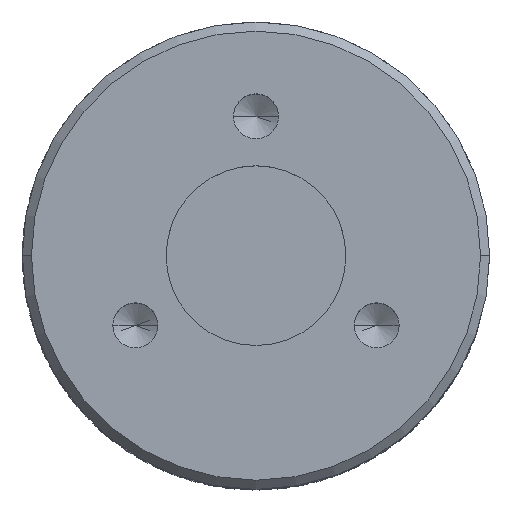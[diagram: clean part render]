
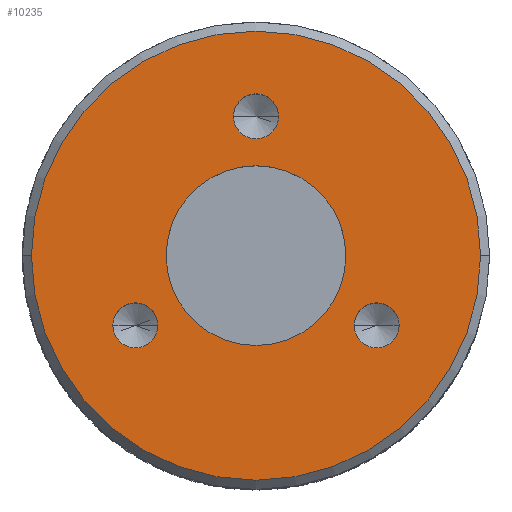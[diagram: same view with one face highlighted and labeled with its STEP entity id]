
A CAD part, top view. The second image highlights one B-rep face of the part: STEP entity #10235.
In plain terms, the highlighted planar face has unit normal (0, 0, 1).
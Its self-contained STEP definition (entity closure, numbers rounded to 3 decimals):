
#243 = CIRCLE ( 'NONE', #4534, 12.492 ) ;
#396 = CIRCLE ( 'NONE', #8144, 1.25 ) ;
#441 = DIRECTION ( 'NONE',  ( 1., 0., 0. ) ) ;
#443 = DIRECTION ( 'NONE',  ( 1., 0., 0. ) ) ;
#617 = PLANE ( 'NONE',  #10557 ) ;
#850 = CIRCLE ( 'NONE', #8289, 1.25 ) ;
#911 = DIRECTION ( 'NONE',  ( 1., 0., 0. ) ) ;
#1122 = CARTESIAN_POINT ( 'NONE',  ( 6.712, -3.875, 0. ) ) ;
#1375 = CARTESIAN_POINT ( 'NONE',  ( 5.462, -3.875, 0. ) ) ;
#1485 = DIRECTION ( 'NONE',  ( 0., 0., 1. ) ) ;
#1488 = CIRCLE ( 'NONE', #11514, 12.492 ) ;
#1513 = FACE_BOUND ( 'NONE', #8088, .T. ) ;
#1538 = DIRECTION ( 'NONE',  ( 0., 0., -1. ) ) ;
#1671 = CARTESIAN_POINT ( 'NONE',  ( 0., 0., 0. ) ) ;
#2049 = DIRECTION ( 'NONE',  ( 1., 0., 0. ) ) ;
#2093 = VERTEX_POINT ( 'NONE', #5024 ) ;
#2571 = DIRECTION ( 'NONE',  ( 0., 0., 1. ) ) ;
#2608 = DIRECTION ( 'NONE',  ( 1., 0., 0. ) ) ;
#2610 = CARTESIAN_POINT ( 'NONE',  ( 6.712, -3.875, 0. ) ) ;
#3050 = AXIS2_PLACEMENT_3D ( 'NONE', #2610, #9245, #3543 ) ;
#3354 = CARTESIAN_POINT ( 'NONE',  ( -6.712, -3.875, 0. ) ) ;
#3435 = CIRCLE ( 'NONE', #3050, 1.25 ) ;
#3448 = CARTESIAN_POINT ( 'NONE',  ( -1.25, 7.75, 0. ) ) ;
#3543 = DIRECTION ( 'NONE',  ( 1., 0., 0. ) ) ;
#3582 = CARTESIAN_POINT ( 'NONE',  ( 0., 0., 0. ) ) ;
#3636 = VERTEX_POINT ( 'NONE', #7720 ) ;
#3818 = CARTESIAN_POINT ( 'NONE',  ( -5.462, -3.875, 0. ) ) ;
#3995 = FACE_BOUND ( 'NONE', #6245, .T. ) ;
#4171 = EDGE_CURVE ( 'NONE', #2093, #4327, #1488, .T. ) ;
#4298 = DIRECTION ( 'NONE',  ( 1., 0., 0. ) ) ;
#4327 = VERTEX_POINT ( 'NONE', #9162 ) ;
#4339 = ORIENTED_EDGE ( 'NONE', *, *, #4370, .F. ) ;
#4370 = EDGE_CURVE ( 'NONE', #3636, #10231, #7508, .T. ) ;
#4522 = DIRECTION ( 'NONE',  ( 1., 0., 0. ) ) ;
#4534 = AXIS2_PLACEMENT_3D ( 'NONE', #11760, #6008, #443 ) ;
#4894 = CIRCLE ( 'NONE', #9024, 1.25 ) ;
#5024 = CARTESIAN_POINT ( 'NONE',  ( 12.492, 0., 0. ) ) ;
#5127 = VERTEX_POINT ( 'NONE', #1375 ) ;
#5536 = AXIS2_PLACEMENT_3D ( 'NONE', #3582, #10255, #4522 ) ;
#5751 = VERTEX_POINT ( 'NONE', #11079 ) ;
#6005 = DIRECTION ( 'NONE',  ( 0., 0., 1. ) ) ;
#6008 = DIRECTION ( 'NONE',  ( 0., 0., 1. ) ) ;
#6123 = AXIS2_PLACEMENT_3D ( 'NONE', #1671, #8284, #2608 ) ;
#6191 = CARTESIAN_POINT ( 'NONE',  ( 0., 5., 0. ) ) ;
#6245 = EDGE_LOOP ( 'NONE', ( #6938, #6701 ) ) ;
#6482 = FACE_OUTER_BOUND ( 'NONE', #12262, .T. ) ;
#6498 = DIRECTION ( 'NONE',  ( 0., 0., 1. ) ) ;
#6520 = CIRCLE ( 'NONE', #5536, 5. ) ;
#6701 = ORIENTED_EDGE ( 'NONE', *, *, #8363, .F. ) ;
#6768 = EDGE_CURVE ( 'NONE', #5127, #5751, #850, .T. ) ;
#6788 = ORIENTED_EDGE ( 'NONE', *, *, #6768, .F. ) ;
#6812 = ORIENTED_EDGE ( 'NONE', *, *, #8199, .F. ) ;
#6910 = ORIENTED_EDGE ( 'NONE', *, *, #4171, .T. ) ;
#6938 = ORIENTED_EDGE ( 'NONE', *, *, #8186, .F. ) ;
#7121 = CARTESIAN_POINT ( 'NONE',  ( 0., 7.75, 0. ) ) ;
#7124 = ORIENTED_EDGE ( 'NONE', *, *, #8094, .T. ) ;
#7486 = EDGE_CURVE ( 'NONE', #8293, #7679, #9715, .T. ) ;
#7508 = CIRCLE ( 'NONE', #6123, 5. ) ;
#7679 = VERTEX_POINT ( 'NONE', #3818 ) ;
#7700 = DIRECTION ( 'NONE',  ( 0., 0., 1. ) ) ;
#7720 = CARTESIAN_POINT ( 'NONE',  ( -5., 0., 0. ) ) ;
#7899 = ORIENTED_EDGE ( 'NONE', *, *, #7486, .F. ) ;
#7938 = CARTESIAN_POINT ( 'NONE',  ( 1.25, 7.75, 0. ) ) ;
#8083 = DIRECTION ( 'NONE',  ( 1., 0., 0. ) ) ;
#8088 = EDGE_LOOP ( 'NONE', ( #6812, #7899 ) ) ;
#8094 = EDGE_CURVE ( 'NONE', #4327, #2093, #243, .T. ) ;
#8144 = AXIS2_PLACEMENT_3D ( 'NONE', #12246, #6498, #911 ) ;
#8148 = DIRECTION ( 'NONE',  ( -1., 0., 0. ) ) ;
#8186 = EDGE_CURVE ( 'NONE', #10541, #8766, #4894, .T. ) ;
#8199 = EDGE_CURVE ( 'NONE', #7679, #8293, #9385, .T. ) ;
#8238 = CARTESIAN_POINT ( 'NONE',  ( -6.712, -3.875, 0. ) ) ;
#8284 = DIRECTION ( 'NONE',  ( 0., 0., 1. ) ) ;
#8289 = AXIS2_PLACEMENT_3D ( 'NONE', #1122, #7700, #2049 ) ;
#8293 = VERTEX_POINT ( 'NONE', #10137 ) ;
#8299 = EDGE_CURVE ( 'NONE', #5751, #5127, #3435, .T. ) ;
#8310 = EDGE_CURVE ( 'NONE', #10231, #3636, #6520, .T. ) ;
#8363 = EDGE_CURVE ( 'NONE', #8766, #10541, #396, .T. ) ;
#8728 = ORIENTED_EDGE ( 'NONE', *, *, #8299, .F. ) ;
#8750 = FACE_BOUND ( 'NONE', #8829, .T. ) ;
#8766 = VERTEX_POINT ( 'NONE', #3448 ) ;
#8829 = EDGE_LOOP ( 'NONE', ( #10414, #4339 ) ) ;
#9024 = AXIS2_PLACEMENT_3D ( 'NONE', #7121, #1485, #8083 ) ;
#9048 = EDGE_LOOP ( 'NONE', ( #8728, #6788 ) ) ;
#9162 = CARTESIAN_POINT ( 'NONE',  ( -12.492, 0., 0. ) ) ;
#9209 = DIRECTION ( 'NONE',  ( 1., 0., 0. ) ) ;
#9245 = DIRECTION ( 'NONE',  ( 0., 0., 1. ) ) ;
#9385 = CIRCLE ( 'NONE', #9670, 1.25 ) ;
#9670 = AXIS2_PLACEMENT_3D ( 'NONE', #3354, #10010, #4298 ) ;
#9715 = CIRCLE ( 'NONE', #11650, 1.25 ) ;
#10010 = DIRECTION ( 'NONE',  ( 0., 0., 1. ) ) ;
#10030 = CARTESIAN_POINT ( 'NONE',  ( 5., 0., 0. ) ) ;
#10137 = CARTESIAN_POINT ( 'NONE',  ( -7.962, -3.875, 0. ) ) ;
#10231 = VERTEX_POINT ( 'NONE', #10030 ) ;
#10235 = ADVANCED_FACE ( 'NONE', ( #3995, #1513, #11294, #8750, #6482 ), #617, .F. ) ;
#10255 = DIRECTION ( 'NONE',  ( 0., 0., 1. ) ) ;
#10414 = ORIENTED_EDGE ( 'NONE', *, *, #8310, .F. ) ;
#10541 = VERTEX_POINT ( 'NONE', #7938 ) ;
#10557 = AXIS2_PLACEMENT_3D ( 'NONE', #6191, #1538, #8148 ) ;
#11079 = CARTESIAN_POINT ( 'NONE',  ( 7.962, -3.875, 0. ) ) ;
#11294 = FACE_BOUND ( 'NONE', #9048, .T. ) ;
#11514 = AXIS2_PLACEMENT_3D ( 'NONE', #11758, #6005, #441 ) ;
#11650 = AXIS2_PLACEMENT_3D ( 'NONE', #8238, #2571, #9209 ) ;
#11758 = CARTESIAN_POINT ( 'NONE',  ( 0., 0., 0. ) ) ;
#11760 = CARTESIAN_POINT ( 'NONE',  ( 0., 0., 0. ) ) ;
#12246 = CARTESIAN_POINT ( 'NONE',  ( 0., 7.75, 0. ) ) ;
#12262 = EDGE_LOOP ( 'NONE', ( #7124, #6910 ) ) ;
